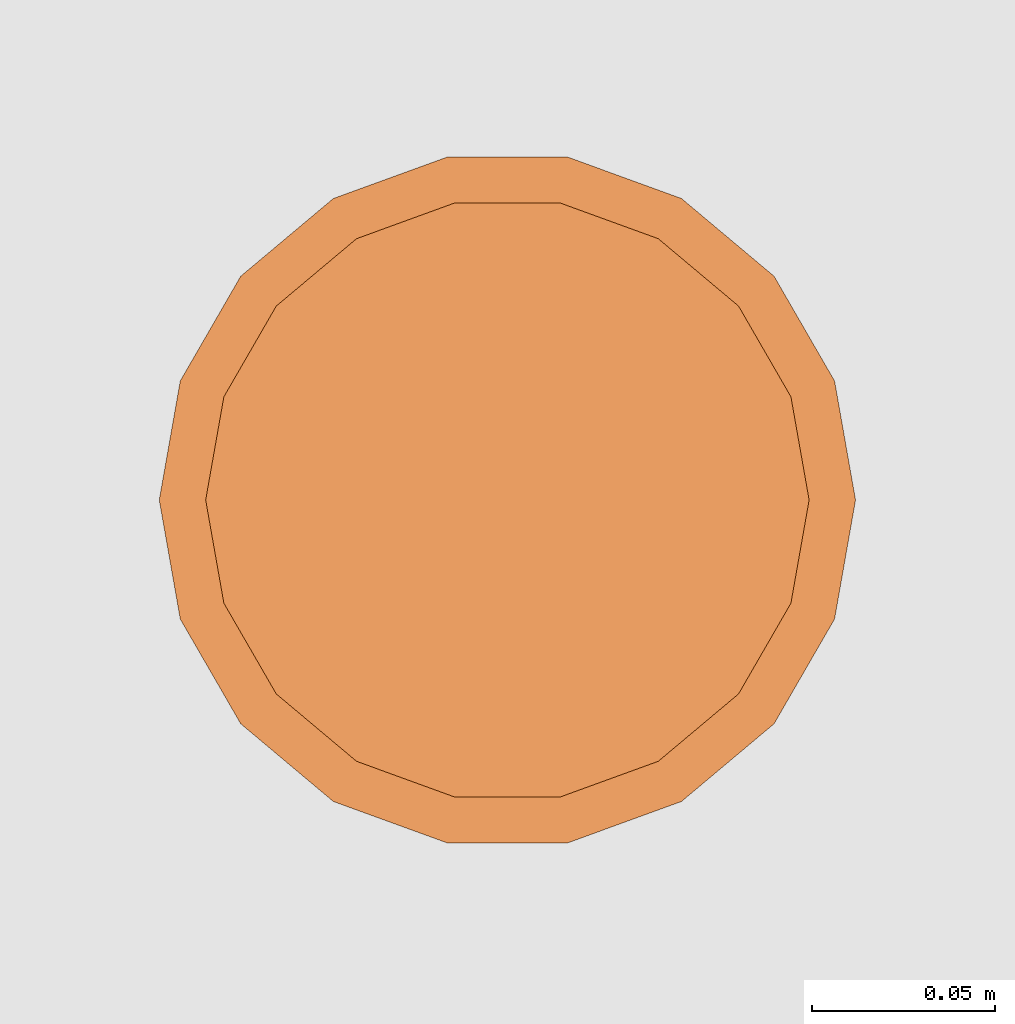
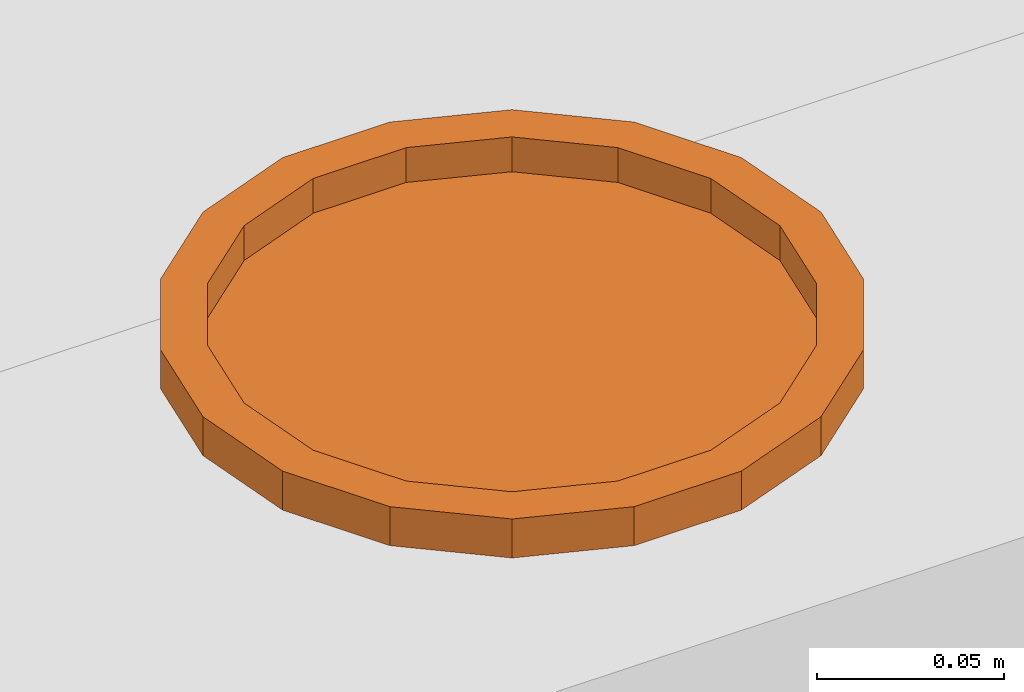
# One storey, part 24 of 48: 1 proxy.
"""IFC2X3 building model written with IfcOpenShell, lengths in inches."""

from ifc_helpers import new_model, entity, si_unit, converted_unit, derived_unit, money_unit, direction, frame, origin_with_axes, place, context, subcontext, project, spatial, open_shell, faceted_brep, surface_model, source, transform, mapped, type_object, element, save


model = new_model("IFC2X3")

# Units and contexts
model_context = context("Model", 3, precision=0.00039370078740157, world=origin_with_axes(), true_north=direction((0.0, 1.0)))
plan_context = context("Plan", 3, precision=0.00039370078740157, world=origin_with_axes(), true_north=direction((0.0, 1.0)))
body_context = subcontext(model_context, "Body", "Model", "MODEL_VIEW")
ifc_project = project(units=[converted_unit("LENGTHUNIT", "INCH", entity("IfcPositiveLengthMeasure", 0.0254), si_unit("LENGTHUNIT", "METRE"), dimensions=[1, 0, 0, 0, 0, 0, 0]), converted_unit("AREAUNIT", "SQUARE_FOOT", entity("IfcPositiveLengthMeasure", 0.09290304), si_unit("AREAUNIT", "SQUARE_METRE"), dimensions=[2, 0, 0, 0, 0, 0, 0]), si_unit("PLANEANGLEUNIT", "RADIAN"), si_unit("SOLIDANGLEUNIT", "STERADIAN"), money_unit("USD"), converted_unit("TIMEUNIT", "Year", entity("IfcTimeMeasure", 31557600.0), si_unit("TIMEUNIT", "SECOND"), dimensions=[0, 0, 1, 0, 0, 0, 0]), si_unit("MASSUNIT", "GRAM", prefix="KILO"), si_unit("THERMODYNAMICTEMPERATUREUNIT", "DEGREE_CELSIUS"), si_unit("LUMINOUSINTENSITYUNIT", "LUMEN"), si_unit("ENERGYUNIT", "JOULE", prefix="MEGA"), derived_unit("SPECIFICHEATCAPACITYUNIT", [(si_unit("ENERGYUNIT", "JOULE"), 1), (si_unit("MASSUNIT", "GRAM", prefix="KILO"), -1), (si_unit("THERMODYNAMICTEMPERATUREUNIT", "KELVIN"), -1)])], contexts=[model_context, plan_context])

# Site, building, storey
site_placement = place(None, origin_with_axes())
site = spatial("IfcSite", under=ifc_project, at=site_placement, Name="Site", CompositionType="ELEMENT")
building_placement = place(site_placement, origin_with_axes())
building = spatial("IfcBuilding", under=site, at=building_placement, Name="Building", CompositionType="ELEMENT")
storey_placement = place(building_placement, origin_with_axes())
storey = spatial("IfcBuildingStorey", under=building, at=storey_placement, Name="First Floor", CompositionType="ELEMENT", Elevation=0.0)

# Proxy
building_element_proxy_type = type_object("IfcBuildingElementProxyType", Name="Recessed Spot", PredefinedType="NOTDEFINED")
shared_shape = source(origin_with_axes(), body_context, "Body", "SurfaceModel", [
    faceted_brep([(3.749999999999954, 0.0, -0.4999999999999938), (3.523847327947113, 1.282575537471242, -0.4999999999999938), (3.523847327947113, 1.282575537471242, 0.0), (3.749999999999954, 0.0, 0.0), (3.523847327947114, -1.282575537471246, -0.4999999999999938), (2.872666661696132, -2.410453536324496, -0.4999999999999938), (1.874999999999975, -3.247595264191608, -0.4999999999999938), (0.6511806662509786, -3.693029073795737, -0.4999999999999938), (-0.6511806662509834, -3.693029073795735, -0.4999999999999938), (-1.87499999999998, -3.247595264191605, -0.4999999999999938), (-2.872666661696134, -2.410453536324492, -0.4999999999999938), (-3.523847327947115, -1.282575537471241, -0.4999999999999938), (-3.749999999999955, 0.0, -0.4999999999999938), (-3.523847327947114, 1.282575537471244, -0.4999999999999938), (-2.872666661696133, 2.410453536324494, -0.4999999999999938), (-1.874999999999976, 3.247595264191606, -0.4999999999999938), (-0.6511806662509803, 3.693029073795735, -0.4999999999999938), (0.6511806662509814, 3.693029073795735, -0.4999999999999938), (1.874999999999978, 3.247595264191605, -0.4999999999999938), (2.872666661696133, 2.410453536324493, -0.4999999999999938), (3.24999999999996, 0.0, -0.4999999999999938), (3.054001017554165, 1.11156546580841, -0.4999999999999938), (2.489644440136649, 2.089059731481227, -0.4999999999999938), (1.62499999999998, 2.814582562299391, -0.4999999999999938), (0.5643565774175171, 3.200625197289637, -0.4999999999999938), (-0.5643565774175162, 3.200625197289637, -0.4999999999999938), (-1.62499999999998, 2.814582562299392, -0.4999999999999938), (-2.489644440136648, 2.089059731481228, -0.4999999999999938), (-3.054001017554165, 1.111565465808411, -0.4999999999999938), (-3.24999999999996, 0.0, -0.4999999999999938), (-3.054001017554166, -1.111565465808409, -0.4999999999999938), (-2.48964444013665, -2.089059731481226, -0.4999999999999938), (-1.624999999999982, -2.814582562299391, -0.4999999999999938), (-0.5643565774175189, -3.200625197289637, -0.4999999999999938), (0.5643565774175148, -3.200625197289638, -0.4999999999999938), (1.624999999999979, -2.814582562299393, -0.4999999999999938), (2.489644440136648, -2.08905973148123, -0.4999999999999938), (3.054001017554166, -1.111565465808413, -0.4999999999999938), (2.872666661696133, 2.410453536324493, 0.0), (1.874999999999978, 3.247595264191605, 0.0), (0.6511806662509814, 3.693029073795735, 0.0), (-0.6511806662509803, 3.693029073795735, 0.0), (-1.874999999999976, 3.247595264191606, 0.0), (-2.872666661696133, 2.410453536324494, 0.0), (-3.523847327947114, 1.282575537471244, 0.0), (-3.749999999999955, 0.0, 0.0), (-3.523847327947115, -1.282575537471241, 0.0), (-2.872666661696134, -2.410453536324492, 0.0), (-1.87499999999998, -3.247595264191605, 0.0), (-0.6511806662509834, -3.693029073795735, 0.0), (0.6511806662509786, -3.693029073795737, 0.0), (1.874999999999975, -3.247595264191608, 0.0), (2.872666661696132, -2.410453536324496, 0.0), (3.523847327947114, -1.282575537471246, 0.0), (3.24999999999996, 0.0, 0.0), (3.054001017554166, -1.111565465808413, 0.0), (2.489644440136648, -2.08905973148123, 0.0), (1.624999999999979, -2.814582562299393, 0.0), (0.5643565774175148, -3.200625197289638, 0.0), (-0.5643565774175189, -3.200625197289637, 0.0), (-1.624999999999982, -2.814582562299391, 0.0), (-2.48964444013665, -2.089059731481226, 0.0), (-3.054001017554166, -1.111565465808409, 0.0), (-3.24999999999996, 0.0, 0.0), (-3.054001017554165, 1.111565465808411, 0.0), (-2.489644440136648, 2.089059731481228, 0.0), (-1.62499999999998, 2.814582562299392, 0.0), (-0.5643565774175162, 3.200625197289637, 0.0), (0.5643565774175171, 3.200625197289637, 0.0), (1.62499999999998, 2.814582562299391, 0.0), (2.489644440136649, 2.089059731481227, 0.0), (3.054001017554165, 1.11156546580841, 0.0)], [[[0, 1, 2, 3]], [[0, 4, 5, 6, 7, 8, 9, 10, 11, 12, 13, 14, 15, 16, 17, 18, 19, 1], [20, 21, 22, 23, 24, 25, 26, 27, 28, 29, 30, 31, 32, 33, 34, 35, 36, 37]], [[1, 19, 38, 2]], [[3, 2, 38, 39, 40, 41, 42, 43, 44, 45, 46, 47, 48, 49, 50, 51, 52, 53], [54, 55, 56, 57, 58, 59, 60, 61, 62, 63, 64, 65, 66, 67, 68, 69, 70, 71]], [[4, 0, 3, 53]], [[5, 4, 53, 52]], [[6, 5, 52, 51]], [[7, 6, 51, 50]], [[8, 7, 50, 49]], [[9, 8, 49, 48]], [[10, 9, 48, 47]], [[11, 10, 47, 46]], [[12, 11, 46, 45]], [[13, 12, 45, 44]], [[14, 13, 44, 43]], [[15, 14, 43, 42]], [[16, 15, 42, 41]], [[17, 16, 41, 40]], [[18, 17, 40, 39]], [[19, 18, 39, 38]], [[21, 20, 54, 71]], [[22, 21, 71, 70]], [[23, 22, 70, 69]], [[24, 23, 69, 68]], [[25, 24, 68, 67]], [[26, 25, 67, 66]], [[27, 26, 66, 65]], [[28, 27, 65, 64]], [[29, 28, 64, 63]], [[30, 29, 63, 62]], [[31, 30, 62, 61]], [[32, 31, 61, 60]], [[33, 32, 60, 59]], [[34, 33, 59, 58]], [[35, 34, 58, 57]], [[36, 35, 57, 56]], [[37, 36, 56, 55]], [[20, 37, 55, 54]]]),
    surface_model("IfcShellBasedSurfaceModel", [(3.24999999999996, 0.0, -0.4460629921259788), (3.054001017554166, -1.111565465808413, -0.4460629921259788), (2.489644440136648, -2.08905973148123, -0.4460629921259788), (1.624999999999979, -2.814582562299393, -0.4460629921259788), (0.5643565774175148, -3.200625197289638, -0.4460629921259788), (-0.5643565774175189, -3.200625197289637, -0.4460629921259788), (-1.624999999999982, -2.814582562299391, -0.4460629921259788), (-2.48964444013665, -2.089059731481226, -0.4460629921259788), (-3.054001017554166, -1.111565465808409, -0.4460629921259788), (-3.24999999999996, 0.0, -0.4460629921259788), (-3.054001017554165, 1.111565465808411, -0.4460629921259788), (-2.489644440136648, 2.089059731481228, -0.4460629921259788), (-1.62499999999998, 2.814582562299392, -0.4460629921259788), (-0.5643565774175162, 3.200625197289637, -0.4460629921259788), (0.5643565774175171, 3.200625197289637, -0.4460629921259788), (1.62499999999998, 2.814582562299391, -0.4460629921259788), (2.489644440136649, 2.089059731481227, -0.4460629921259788), (3.054001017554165, 1.11156546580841, -0.4460629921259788)], [open_shell([[[0, 1, 2, 3, 4, 5, 6, 7, 8, 9, 10, 11, 12, 13, 14, 15, 16, 17]]])]),
])
proxy_placement = place(storey_placement, frame((39.00000000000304, 52.74999999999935, 100.9999999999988), z_axis=(0.0, 0.0, 1.0), x_axis=(1.0, 0.0, 0.0)))
element("IfcBuildingElementProxy", 1, at=proxy_placement, inside=storey, type_object=building_element_proxy_type, Name="L-03", context=body_context, shape_type="MappedRepresentation", body=[
    mapped(shared_shape, transform((0.0, 0.0, 0.0))),
])

save(model, "model.ifc")
